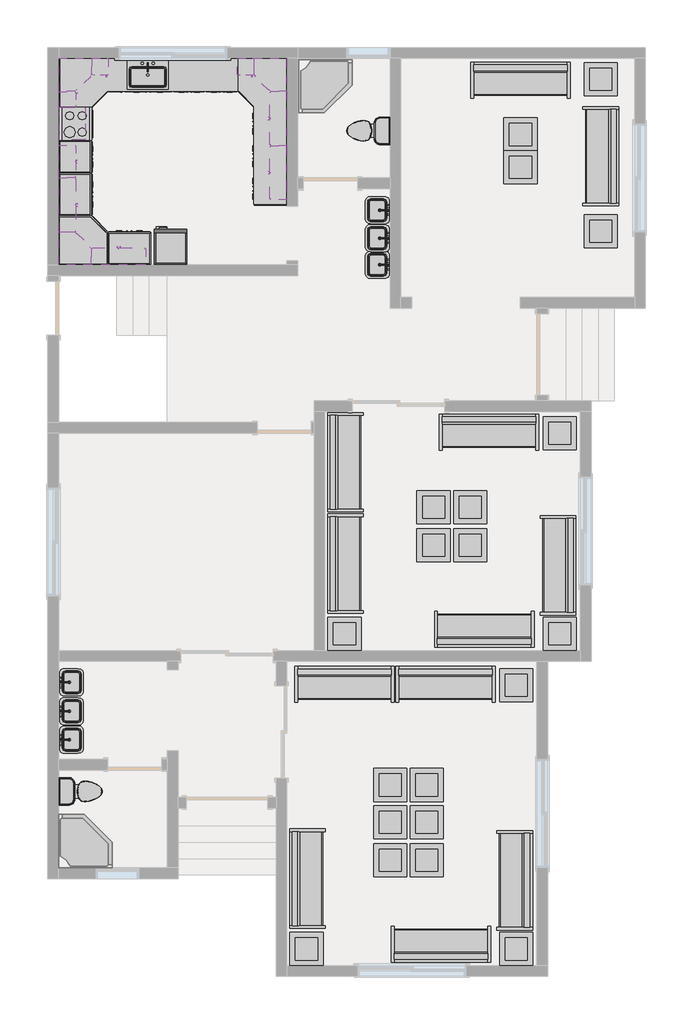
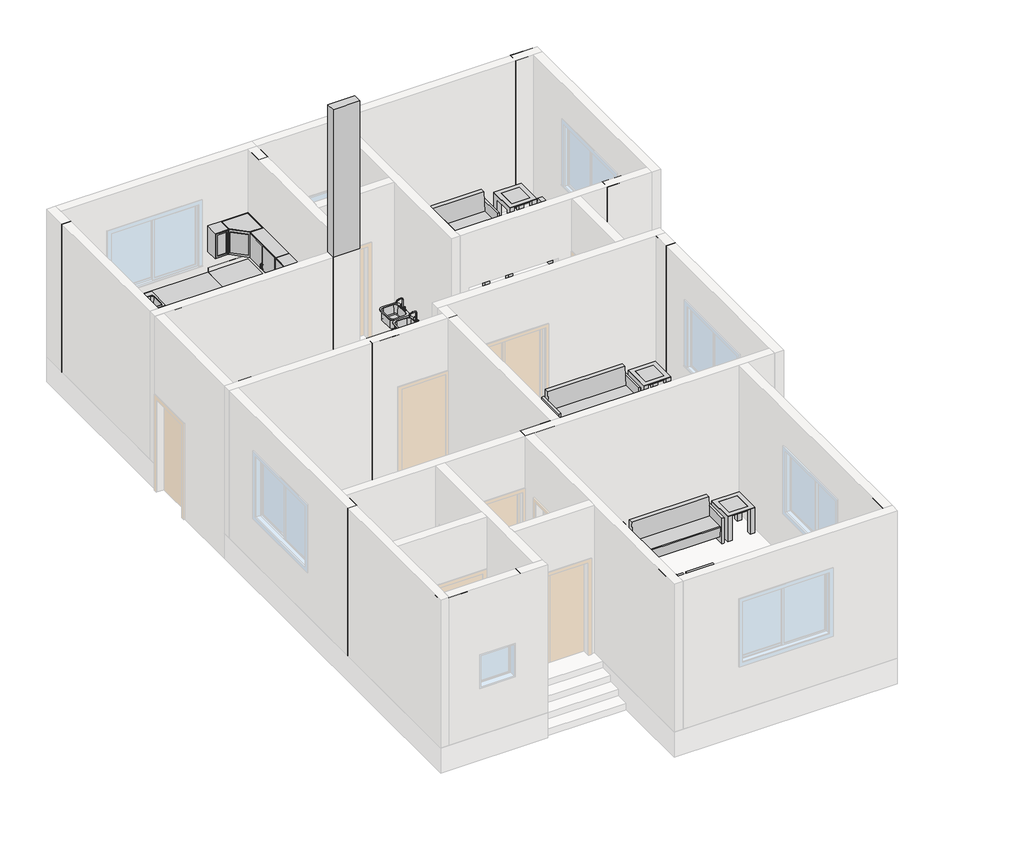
# One storey, part 2 of 2: 58 furniture elements, 19 columns, 11 flow terminals, 3 proxies.
"""IFC4 building model written with IfcOpenShell, lengths in millimetres."""

from ifc_helpers import new_model, si_unit, origin, origin_with_axes, place, context, project, spatial, polyline, outline, extrude, transform, mapped, element, save
from components import m_exhaust_hood_600_x_490mm_1f88b466, m_range_610_x_610mm_0f77da38, m_refrigerator_600_x_660mm_a466bf94, flow_terminal_bc4e76e0, m_sink_kitchen_single_760_x_535mm_74321b3d, m_sink_vanity_square_500_x_440mm_1e229b74, m_toilet_domestic_3d_m_toilet_domestic_3d_5cb52bd4, m_toilet_domestic_3d_m_toilet_domestic_3d_183bbd19, furniture_600mm_74c6c1e3, furniture_600mm_depth_d99565a5, furniture_800_mm_1ff4edde, m_base_cabinet_corner_unit_angled_900mm_0daa8f47, m_base_cabinet_single_door_w_sliding_drawers_0300mm_e5213fac, m_counter_top_l_shaped_2_600mm_depth_18ab53e4, m_sofa_1830mm_f9e8a66b, m_table_coffee_0610_x_0610_x_0610mm_65ce43c2, m_upper_cabinet_corner_unit_wall_300mm_3086bc04, m_upper_cabinet_corner_unit_wall_300mm_de248728, m_upper_cabinet_double_door_wall_1000mm_f9913229, m_upper_cabinet_double_door_wall_600mm_93809998, m_upper_cabinet_single_door_w_glass_wall_300mm_c5a61024, special_ad59d58f

model = new_model("IFC4")

# Units and contexts
model_context = context("Model", 3, world=origin())
ifc_project = project(units=[si_unit("LENGTHUNIT", "METRE", prefix="MILLI")], contexts=[model_context])

# Site, building, storey
site = spatial("IfcSite", under=ifc_project)
building = spatial("IfcBuilding", under=site)
storey = spatial("IfcBuildingStorey", under=building, Name="الدور الأرضي", Elevation=0.0)

# Proxies
placement = place(None, origin())
m_exhaust_hood_600_x_490mm_shape = m_exhaust_hood_600_x_490mm_1f88b466(model_context)
element("IfcBuildingElementProxy", 1, Name="M_Exhaust Hood : 600 x 490mm", ObjectType="M_Exhaust Hood : 600 x 490mm", at=placement, inside=storey, context=model_context, shape_type="MappedRepresentation", body=[
    mapped(m_exhaust_hood_600_x_490mm_shape, transform((-5718.9848222, 6807.3054684, 0.0), x_axis=(0.0, -1.0, 0.0), y_axis=(1.0, 0.0, 0.0), z_axis=(0.0, 0.0, 1.0))),
])
m_range_610_x_610mm_shape = m_range_610_x_610mm_0f77da38(model_context)
element("IfcBuildingElementProxy", 2, Name="M_Range : 610 x 610mm", ObjectType="M_Range : 610 x 610mm", at=placement, inside=storey, context=model_context, shape_type="MappedRepresentation", body=[
    mapped(m_range_610_x_610mm_shape, transform((-5008.9848222, 6519.7272556, 0.0), x_axis=(0.0, 1.0000000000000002, 0.0), y_axis=(-1.0000000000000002, 0.0, 0.0), z_axis=(0.0, 0.0, 1.0))),
])
m_refrigerator_600_x_660mm_shape = m_refrigerator_600_x_660mm_a466bf94(model_context)
element("IfcBuildingElementProxy", 3, Name="M_Refrigerator : 600 x 660mm", ObjectType="M_Refrigerator : 600 x 660mm", at=placement, inside=storey, context=model_context, shape_type="MappedRepresentation", body=[
    mapped(m_refrigerator_600_x_660mm_shape, transform((-3612.7859648, 4525.9423458, 0.0), x_axis=(-1.0000000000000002, 0.0, 0.0), y_axis=(0.0, -1.0000000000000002, 0.0), z_axis=(0.0, 0.0, 1.0))),
])

# Columns
element("IfcColumn", 4, ObjectType="M_Rectangular Column : 200 x 600 mm", at=placement, inside=storey, context=model_context, shape_type="SweptSolid", body=[
    extrude(outline(polyline([(-5618.9848222, 7629.7272556), (-5818.9848222, 7629.7272556), (-5818.9848222, 8229.7272556), (-5618.9848222, 8229.7272556), (-5618.9848222, 7629.7272556)])), origin_with_axes(), (0.0, 0.0, 1.0), 3500.0),
])
element("IfcColumn", 5, ObjectType="M_Rectangular Column : 200 x 600 mm", at=placement, inside=storey, context=model_context, shape_type="SweptSolid", body=[
    extrude(outline(polyline([(-1418.9848222, 8209.7272556), (-1218.9848222, 8209.7272556), (-1218.9848222, 7609.7272556), (-1418.9848222, 7609.7272556), (-1418.9848222, 8209.7272556)])), origin_with_axes(), (0.0, 0.0, 1.0), 3500.0),
])
element("IfcColumn", 6, ObjectType="M_Rectangular Column : 200 x 600 mm", at=placement, inside=storey, context=model_context, shape_type="SweptSolid", body=[
    extrude(outline(polyline([(481.0151778, 8229.7272556), (681.0151778, 8229.7272556), (681.0151778, 7629.7272556), (481.0151778, 7629.7272556), (481.0151778, 8229.7272556)])), origin_with_axes(), (0.0, 0.0, 1.0), 3500.0),
])
element("IfcColumn", 7, ObjectType="M_Rectangular Column : 200 x 600 mm", at=placement, inside=storey, context=model_context, shape_type="SweptSolid", body=[
    extrude(outline(polyline([(5181.0151778, 8229.7272556), (5181.0151778, 8029.7272556), (4581.0151778, 8029.7272556), (4581.0151778, 8229.7272556), (5181.0151778, 8229.7272556)])), origin_with_axes(), (0.0, 0.0, 1.0), 3500.0),
])
element("IfcColumn", 8, ObjectType="M_Rectangular Column : 200 x 600 mm", at=placement, inside=storey, context=model_context, shape_type="SweptSolid", body=[
    extrude(outline(polyline([(4581.0151778, 3629.7272556), (4581.0151778, 3429.7272556), (3981.0151778, 3429.7272556), (3981.0151778, 3629.7272556), (4581.0151778, 3629.7272556)])), origin_with_axes(), (0.0, 0.0, 1.0), 3500.0),
])
element("IfcColumn", 9, ObjectType="M_Rectangular Column : 200 x 600 mm", at=placement, inside=storey, context=model_context, shape_type="SweptSolid", body=[
    extrude(outline(polyline([(3981.0151778, 1729.7272556), (4181.0151778, 1729.7272556), (4181.0151778, 1129.7272556), (3981.0151778, 1129.7272556), (3981.0151778, 1729.7272556)])), origin_with_axes(), (0.0, 0.0, 1.0), 3500.0),
])
element("IfcColumn", 10, ObjectType="M_Rectangular Column : 200 x 600 mm", at=placement, inside=storey, context=model_context, shape_type="SweptSolid", body=[
    extrude(outline(polyline([(3781.0151778, -2870.2727444), (3781.0151778, -3070.2727444), (3181.0151778, -3070.2727444), (3181.0151778, -2870.2727444), (3781.0151778, -2870.2727444)])), origin_with_axes(), (0.0, 0.0, 1.0), 3500.0),
])
element("IfcColumn", 11, ObjectType="M_Rectangular Column : 200 x 600 mm", at=placement, inside=storey, context=model_context, shape_type="SweptSolid", body=[
    extrude(outline(polyline([(-918.9848222, 1729.7272556), (-718.9848222, 1729.7272556), (-718.9848222, 1129.7272556), (-918.9848222, 1129.7272556), (-918.9848222, 1729.7272556)])), origin_with_axes(), (0.0, 0.0, 1.0), 3500.0),
])
element("IfcColumn", 12, ObjectType="M_Rectangular Column : 200 x 600 mm", at=placement, inside=storey, context=model_context, shape_type="SweptSolid", body=[
    extrude(outline(polyline([(-1218.9848222, 4229.7272556), (-1218.9848222, 4029.7272556), (-1818.9848222, 4029.7272556), (-1818.9848222, 4229.7272556), (-1218.9848222, 4229.7272556)])), origin_with_axes(), (0.0, 0.0, 1.0), 7000.0),
])
element("IfcColumn", 13, ObjectType="M_Rectangular Column : 200 x 600 mm", at=placement, inside=storey, context=model_context, shape_type="SweptSolid", body=[
    extrude(outline(polyline([(-2018.9848222, 1329.7272556), (-2018.9848222, 1129.7272556), (-2618.9848222, 1129.7272556), (-2618.9848222, 1329.7272556), (-2018.9848222, 1329.7272556)])), origin_with_axes(), (0.0, 0.0, 1.0), 3500.0),
])
element("IfcColumn", 14, ObjectType="M_Rectangular Column : 200 x 600 mm", at=placement, inside=storey, context=model_context, shape_type="SweptSolid", body=[
    extrude(outline(polyline([(-5218.9848222, 1329.7272556), (-5218.9848222, 1129.7272556), (-5818.9848222, 1129.7272556), (-5818.9848222, 1329.7272556), (-5218.9848222, 1329.7272556)])), origin_with_axes(), (0.0, 0.0, 1.0), 3500.0),
])
element("IfcColumn", 15, ObjectType="M_Rectangular Column : 200 x 600 mm", at=placement, inside=storey, context=model_context, shape_type="SweptSolid", body=[
    extrude(outline(polyline([(-5218.9848222, 4229.7272556), (-5218.9848222, 4029.7272556), (-5818.9848222, 4029.7272556), (-5818.9848222, 4229.7272556), (-5218.9848222, 4229.7272556)])), origin_with_axes(), (0.0, 0.0, 1.0), 3500.0),
])
element("IfcColumn", 16, ObjectType="M_Rectangular Column : 200 x 600 mm", at=placement, inside=storey, context=model_context, shape_type="SweptSolid", body=[
    extrude(outline(polyline([(-5818.9848222, -2870.2727444), (-5618.9848222, -2870.2727444), (-5618.9848222, -3470.2727444), (-5818.9848222, -3470.2727444), (-5818.9848222, -2870.2727444)])), origin_with_axes(), (0.0, 0.0, 1.0), 3500.0),
])
element("IfcColumn", 17, ObjectType="M_Rectangular Column : 200 x 600 mm", at=placement, inside=storey, context=model_context, shape_type="SweptSolid", body=[
    extrude(outline(polyline([(-5218.9848222, -6870.2727444), (-5218.9848222, -7070.2727444), (-5818.9848222, -7070.2727444), (-5818.9848222, -6870.2727444), (-5218.9848222, -6870.2727444)])), origin_with_axes(), (0.0, 0.0, 1.0), 3500.0),
])
element("IfcColumn", 18, ObjectType="M_Rectangular Column : 200 x 600 mm", at=placement, inside=storey, context=model_context, shape_type="SweptSolid", body=[
    extrude(outline(polyline([(-3418.9848222, -6870.2727444), (-3418.9848222, -7070.2727444), (-4018.9848222, -7070.2727444), (-4018.9848222, -6870.2727444), (-3418.9848222, -6870.2727444)])), origin_with_axes(), (0.0, 0.0, 1.0), 3500.0),
])
element("IfcColumn", 19, ObjectType="M_Rectangular Column : 200 x 600 mm", at=placement, inside=storey, context=model_context, shape_type="SweptSolid", body=[
    extrude(outline(polyline([(-1618.9848222, -8270.2727444), (-1418.9848222, -8270.2727444), (-1418.9848222, -8870.2727444), (-1618.9848222, -8870.2727444), (-1618.9848222, -8270.2727444)])), origin_with_axes(), (0.0, 0.0, 1.0), 3500.0),
])
element("IfcColumn", 20, ObjectType="M_Rectangular Column : 200 x 600 mm", at=placement, inside=storey, context=model_context, shape_type="SweptSolid", body=[
    extrude(outline(polyline([(3181.0151778, -8270.2727444), (3381.0151778, -8270.2727444), (3381.0151778, -8870.2727444), (3181.0151778, -8870.2727444), (3181.0151778, -8270.2727444)])), origin_with_axes(), (0.0, 0.0, 1.0), 3500.0),
])
element("IfcColumn", 21, ObjectType="M_Rectangular Column : 200 x 600 mm", at=placement, inside=storey, context=model_context, shape_type="SweptSolid", body=[
    extrude(outline(polyline([(481.0151778, 4029.7272556), (681.0151778, 4029.7272556), (681.0151778, 3429.7272556), (481.0151778, 3429.7272556), (481.0151778, 4029.7272556)])), origin_with_axes(), (0.0, 0.0, 1.0), 3500.0),
])
element("IfcColumn", 22, ObjectType="M_Rectangular Column : 200 x 900 mm", at=placement, inside=storey, context=model_context, shape_type="SweptSolid", body=[
    extrude(outline(polyline([(-708.9848222, -2870.2727444), (-708.9848222, -3070.2727444), (-1608.9848222, -3070.2727444), (-1608.9848222, -2870.2727444), (-708.9848222, -2870.2727444)])), origin_with_axes(), (0.0, 0.0, 1.0), 3500.0),
])

# Flow terminals
flow_terminal_shape = flow_terminal_bc4e76e0(model_context)
element("IfcFlowTerminal", 23, ObjectType="Kohler_-_K-1517_Cap_Cod_40_inch_Neo-angle_Shower_1286 : Kohler_-_K-1517_Cap_Cod_40_inch_Neo-angle_Shower_1286", at=placement, inside=storey, context=model_context, shape_type="MappedRepresentation", body=[
    mapped(flow_terminal_shape, transform((-1198.9848222, 8009.8435596, 0.0), x_axis=(1.0, 0.0, 0.0), y_axis=(0.0, 1.0, 0.0), z_axis=(0.0, 0.0, 1.0))),
])
element("IfcFlowTerminal", 24, ObjectType="Kohler_-_K-1517_Cap_Cod_40_inch_Neo-angle_Shower_1286 : Kohler_-_K-1517_Cap_Cod_40_inch_Neo-angle_Shower_1286", at=placement, inside=storey, context=model_context, shape_type="MappedRepresentation", body=[
    mapped(flow_terminal_shape, transform((-5618.9848222, -6870.2727444, 0.0), x_axis=(0.0, 1.0000000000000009, 0.0), y_axis=(-1.0000000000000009, 0.0, 0.0), z_axis=(0.0, 0.0, 1.0))),
])
m_sink_kitchen_single_760_x_535mm_shape = m_sink_kitchen_single_760_x_535mm_74321b3d(model_context)
element("IfcFlowTerminal", 25, ObjectType="M_Sink Kitchen-Single : 760 x 535mm", at=placement, inside=storey, context=model_context, shape_type="MappedRepresentation", body=[
    mapped(m_sink_kitchen_single_760_x_535mm_shape, transform((-3996.5740627, 7725.0599855, 0.0), x_axis=(1.0, 0.0, 0.0), y_axis=(0.0, 1.0, 0.0), z_axis=(0.0, 0.0, 1.0))),
])
m_sink_vanity_square_500_x_440mm_shape = m_sink_vanity_square_500_x_440mm_1e229b74(model_context)
element("IfcFlowTerminal", 26, ObjectType="M_Sink Vanity-Square : 500 x 440mm", at=placement, inside=storey, context=model_context, shape_type="MappedRepresentation", body=[
    mapped(m_sink_vanity_square_500_x_440mm_shape, transform((-5424.8145571, -4527.3654741, 0.0), x_axis=(0.0, 1.0, 0.0), y_axis=(-1.0, 0.0, 0.0), z_axis=(0.0, 0.0, 1.0))),
])
element("IfcFlowTerminal", 27, ObjectType="M_Sink Vanity-Square : 500 x 440mm", at=placement, inside=storey, context=model_context, shape_type="MappedRepresentation", body=[
    mapped(m_sink_vanity_square_500_x_440mm_shape, transform((-5424.8145571, -4005.4654741, 0.0), x_axis=(0.0, 1.0, 0.0), y_axis=(-1.0, 0.0, 0.0), z_axis=(0.0, 0.0, 1.0))),
])
element("IfcFlowTerminal", 28, ObjectType="M_Sink Vanity-Square : 500 x 440mm", at=placement, inside=storey, context=model_context, shape_type="MappedRepresentation", body=[
    mapped(m_sink_vanity_square_500_x_440mm_shape, transform((-5424.8145571, -3470.8660181, 0.0), x_axis=(0.0, 1.0, 0.0), y_axis=(-1.0, 0.0, 0.0), z_axis=(0.0, 0.0, 1.0))),
])
element("IfcFlowTerminal", 29, ObjectType="M_Sink Vanity-Square : 500 x 440mm", at=placement, inside=storey, context=model_context, shape_type="MappedRepresentation", body=[
    mapped(m_sink_vanity_square_500_x_440mm_shape, transform((286.8449127, 5251.9869495, 0.0), x_axis=(0.0, -1.0, 0.0), y_axis=(1.0, 0.0, 0.0), z_axis=(0.0, 0.0, 1.0))),
])
element("IfcFlowTerminal", 30, ObjectType="M_Sink Vanity-Square : 500 x 440mm", at=placement, inside=storey, context=model_context, shape_type="MappedRepresentation", body=[
    mapped(m_sink_vanity_square_500_x_440mm_shape, transform((286.8449127, 4737.3164962, 0.0), x_axis=(0.0, -1.0, 0.0), y_axis=(1.0, 0.0, 0.0), z_axis=(0.0, 0.0, 1.0))),
])
element("IfcFlowTerminal", 31, ObjectType="M_Sink Vanity-Square : 500 x 440mm", at=placement, inside=storey, context=model_context, shape_type="MappedRepresentation", body=[
    mapped(m_sink_vanity_square_500_x_440mm_shape, transform((286.8449127, 4245.4164962, 0.0), x_axis=(0.0, -1.0, 0.0), y_axis=(1.0, 0.0, 0.0), z_axis=(0.0, 0.0, 1.0))),
])
m_toilet_domestic_3d_m_toilet_domestic_3d_shape = m_toilet_domestic_3d_m_toilet_domestic_3d_5cb52bd4(model_context)
m_toilet_domestic_3d_m_toilet_domestic_3d_2_shape = m_toilet_domestic_3d_m_toilet_domestic_3d_183bbd19(model_context)
element("IfcFlowTerminal", 32, ObjectType="M_Toilet-Domestic-3D : M_Toilet-Domestic-3D", at=placement, inside=storey, context=model_context, shape_type="MappedRepresentation", body=[
    mapped(m_toilet_domestic_3d_m_toilet_domestic_3d_shape, transform((-13.6808495, 6698.3117877, 0.0), x_axis=(0.0, -0.9999999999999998, 0.0), y_axis=(0.9999999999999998, 0.0, 0.0), z_axis=(0.0, 0.0, 1.0))),
    mapped(m_toilet_domestic_3d_m_toilet_domestic_3d_2_shape, transform((-13.6808495, 6698.3117877, 0.0), x_axis=(0.0, -0.9999999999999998, 0.0), y_axis=(0.9999999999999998, 0.0, 0.0), z_axis=(0.0, 0.0, 1.0))),
])
element("IfcFlowTerminal", 33, ObjectType="M_Toilet-Domestic-3D : M_Toilet-Domestic-3D", at=placement, inside=storey, context=model_context, shape_type="MappedRepresentation", body=[
    mapped(m_toilet_domestic_3d_m_toilet_domestic_3d_shape, transform((-5124.2887948, -5463.6687718, 0.0), x_axis=(0.0, 1.0000000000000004, 0.0), y_axis=(-1.0000000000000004, 0.0, 0.0), z_axis=(0.0, 0.0, 1.0))),
    mapped(m_toilet_domestic_3d_m_toilet_domestic_3d_2_shape, transform((-5124.2887948, -5463.6687718, 0.0), x_axis=(0.0, 1.0000000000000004, 0.0), y_axis=(-1.0000000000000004, 0.0, 0.0), z_axis=(0.0, 0.0, 1.0))),
])

# Furniture
furniture_600mm_shape = furniture_600mm_74c6c1e3(model_context)
element("IfcFurniture", 34, ObjectType="M_Base Cabinet-Double Door & 2 Drawer : 600mm", at=placement, inside=storey, context=model_context, shape_type="MappedRepresentation", body=[
    mapped(furniture_600mm_shape, transform((-1418.9848222, 5648.4649605, 0.0), x_axis=(0.0, -1.0000000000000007, 0.0), y_axis=(1.0000000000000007, 0.0, 0.0), z_axis=(0.0, 0.0, 1.0))),
])
element("IfcFurniture", 35, ObjectType="M_Base Cabinet-Double Door & 2 Drawer : 600mm", at=placement, inside=storey, context=model_context, shape_type="MappedRepresentation", body=[
    mapped(furniture_600mm_shape, transform((-1418.9848222, 6248.4649605, 0.0), x_axis=(0.0, -1.0, 0.0), y_axis=(1.0, 0.0, 0.0), z_axis=(0.0, 0.0, 1.0))),
])
element("IfcFurniture", 36, ObjectType="M_Base Cabinet-Double Door & 2 Drawer : 600mm", at=placement, inside=storey, context=model_context, shape_type="MappedRepresentation", body=[
    mapped(furniture_600mm_shape, transform((-1418.9848222, 6848.4649605, 0.0), x_axis=(0.0, -1.0, 0.0), y_axis=(1.0, 0.0, 0.0), z_axis=(0.0, 0.0, 1.0))),
])
element("IfcFurniture", 37, ObjectType="M_Base Cabinet-Double Door & 2 Drawer : 600mm", at=placement, inside=storey, context=model_context, shape_type="MappedRepresentation", body=[
    mapped(furniture_600mm_shape, transform((-2637.7225271, 8029.7272556, 0.0), x_axis=(1.0, 0.0, 0.0), y_axis=(0.0, 1.0, 0.0), z_axis=(0.0, 0.0, 1.0))),
])
element("IfcFurniture", 38, ObjectType="M_Base Cabinet-Double Door & 2 Drawer : 600mm", at=placement, inside=storey, context=model_context, shape_type="MappedRepresentation", body=[
    mapped(furniture_600mm_shape, transform((-3237.7225271, 8029.7272556, 0.0), x_axis=(1.0, 0.0, 0.0), y_axis=(0.0, 1.0, 0.0), z_axis=(0.0, 0.0, 1.0))),
])
element("IfcFurniture", 39, ObjectType="M_Base Cabinet-Double Door & 2 Drawer : 600mm", at=placement, inside=storey, context=model_context, shape_type="MappedRepresentation", body=[
    mapped(furniture_600mm_shape, transform((-5618.9848222, 6200.9895507, 0.0), x_axis=(0.0, 1.0000000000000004, 0.0), y_axis=(-1.0000000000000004, 0.0, 0.0), z_axis=(0.0, 0.0, 1.0))),
])
furniture_600mm_depth_shape = furniture_600mm_depth_d99565a5(model_context)
element("IfcFurniture", 40, ObjectType="M_Counter Top-L Shaped w Sink Hole 2 : 600mm Depth", at=placement, inside=storey, context=model_context, shape_type="MappedRepresentation", body=[
    mapped(furniture_600mm_depth_shape, transform((-4423.5225271, 8048.7772556, 0.0), x_axis=(1.0, 0.0, 0.0), y_axis=(0.0, 1.0, 0.0), z_axis=(0.0, 0.0, 1.0))),
])
furniture_800_mm_shape = furniture_800_mm_1ff4edde(model_context)
element("IfcFurniture", 41, ObjectType="M_Base Cabinet-Double Door & 2 Drawer : 800 mm", at=placement, inside=storey, context=model_context, shape_type="MappedRepresentation", body=[
    mapped(furniture_800_mm_shape, transform((-5618.9848222, 5505.9895507, 0.0), x_axis=(0.0, 1.0000000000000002, 0.0), y_axis=(-1.0000000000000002, 0.0, 0.0), z_axis=(0.0, 0.0, 1.0))),
])
element("IfcFurniture", 42, ObjectType="M_Base Cabinet-Double Door & 2 Drawer : 800 mm", at=placement, inside=storey, context=model_context, shape_type="MappedRepresentation", body=[
    mapped(furniture_800_mm_shape, transform((-4305.2471173, 4229.7272556, 0.0), x_axis=(-1.0000000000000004, 0.0, 0.0), y_axis=(0.0, -1.0000000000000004, 0.0), z_axis=(0.0, 0.0, 1.0))),
])
m_base_cabinet_corner_unit_angled_900mm_shape = m_base_cabinet_corner_unit_angled_900mm_0daa8f47(model_context)
element("IfcFurniture", 43, ObjectType="M_Base Cabinet-Corner Unit-Angled : 900mm", at=placement, inside=storey, context=model_context, shape_type="MappedRepresentation", body=[
    mapped(m_base_cabinet_corner_unit_angled_900mm_shape, transform((-1931.3225271, 8029.7272556, 0.0), x_axis=(1.0, 0.0, 0.0), y_axis=(0.0, 1.0, 0.0), z_axis=(0.0, 0.0, 1.0))),
])
element("IfcFurniture", 44, ObjectType="M_Base Cabinet-Corner Unit-Angled : 900mm", at=placement, inside=storey, context=model_context, shape_type="MappedRepresentation", body=[
    mapped(m_base_cabinet_corner_unit_angled_900mm_shape, transform((-5618.9848222, 7517.3895507, 0.0), x_axis=(0.0, 1.0000000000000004, 0.0), y_axis=(-1.0000000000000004, 0.0, 0.0), z_axis=(0.0, 0.0, 1.0))),
])
element("IfcFurniture", 45, ObjectType="M_Base Cabinet-Corner Unit-Angled : 900mm", at=placement, inside=storey, context=model_context, shape_type="MappedRepresentation", body=[
    mapped(m_base_cabinet_corner_unit_angled_900mm_shape, transform((-5106.6471173, 4229.7272556, 0.0), x_axis=(-1.0000000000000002, 0.0, 0.0), y_axis=(0.0, -1.0000000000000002, 0.0), z_axis=(0.0, 0.0, 1.0))),
])
m_base_cabinet_single_door_w_sliding_drawers_0300mm_shape = m_base_cabinet_single_door_w_sliding_drawers_0300mm_e5213fac(model_context)
element("IfcFurniture", 46, ObjectType="M_Base Cabinet-Single Door w Sliding Drawers : 0300mm", at=placement, inside=storey, context=model_context, shape_type="MappedRepresentation", body=[
    mapped(m_base_cabinet_single_door_w_sliding_drawers_0300mm_shape, transform((-4587.7225271, 8029.7272556, 0.0), x_axis=(1.0, 0.0, 0.0), y_axis=(0.0, 1.0, 0.0), z_axis=(0.0, 0.0, 1.0))),
])
m_counter_top_l_shaped_2_600mm_depth_shape = m_counter_top_l_shaped_2_600mm_depth_18ab53e4(model_context)
element("IfcFurniture", 47, ObjectType="M_Counter Top-L Shaped 2 : 600mm Depth", at=placement, inside=storey, context=model_context, shape_type="MappedRepresentation", body=[
    mapped(m_counter_top_l_shaped_2_600mm_depth_shape, transform((-1399.9348222, 6848.3149605, 0.0), x_axis=(0.0, -1.0, 0.0), y_axis=(1.0, 0.0, 0.0), z_axis=(0.0, 0.0, 1.0))),
])
m_sofa_1830mm_shape = m_sofa_1830mm_f9e8a66b(model_context)
element("IfcFurniture", 48, ObjectType="M_Sofa : 1830mm", at=placement, inside=storey, context=model_context, shape_type="MappedRepresentation", body=[
    mapped(m_sofa_1830mm_shape, transform((4214.8610795, 6300.0977474, 0.0), x_axis=(0.0, -1.0000000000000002, 0.0), y_axis=(1.0000000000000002, 0.0, 0.0), z_axis=(0.0, 0.0, 1.0))),
])
element("IfcFurniture", 49, ObjectType="M_Sofa : 1830mm", at=placement, inside=storey, context=model_context, shape_type="MappedRepresentation", body=[
    mapped(m_sofa_1830mm_shape, transform((2810.644686, 7483.5731572, 0.0), x_axis=(1.0000000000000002, 0.0, 0.0), y_axis=(0.0, 1.0000000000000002, 0.0), z_axis=(0.0, 0.0, 1.0))),
])
element("IfcFurniture", 50, ObjectType="M_Sofa : 1830mm", at=placement, inside=storey, context=model_context, shape_type="MappedRepresentation", body=[
    mapped(m_sofa_1830mm_shape, transform((2230.644686, 1003.5731572, 0.0), x_axis=(1.0, 0.0, 0.0), y_axis=(0.0, 1.0, 0.0), z_axis=(0.0, 0.0, 1.0))),
])
element("IfcFurniture", 51, ObjectType="M_Sofa : 1830mm", at=placement, inside=storey, context=model_context, shape_type="MappedRepresentation", body=[
    mapped(m_sofa_1830mm_shape, transform((2287.850015, -2331.4325264, 0.0), x_axis=(-1.0000000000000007, 0.0, 0.0), y_axis=(0.0, -1.0000000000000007, 0.0), z_axis=(0.0, 0.0, 1.0))),
])
element("IfcFurniture", 52, ObjectType="M_Sofa : 1830mm", at=placement, inside=storey, context=model_context, shape_type="MappedRepresentation", body=[
    mapped(m_sofa_1830mm_shape, transform((-194.4852947, 525.1700393, 0.0), x_axis=(0.0, 1.0, 0.0), y_axis=(-1.0, 0.0, 0.0), z_axis=(0.0, 0.0, 1.0))),
])
element("IfcFurniture", 53, ObjectType="M_Sofa : 1830mm", at=placement, inside=storey, context=model_context, shape_type="MappedRepresentation", body=[
    mapped(m_sofa_1830mm_shape, transform((-194.4852947, -1340.6432362, 0.0), x_axis=(0.0, 1.0, 0.0), y_axis=(-1.0, 0.0, 0.0), z_axis=(0.0, 0.0, 1.0))),
])
element("IfcFurniture", 54, ObjectType="M_Sofa : 1830mm", at=placement, inside=storey, context=model_context, shape_type="MappedRepresentation", body=[
    mapped(m_sofa_1830mm_shape, transform((3426.6786799, -1232.0660841, 0.0), x_axis=(0.0, -1.0000000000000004, 0.0), y_axis=(1.0000000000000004, 0.0, 0.0), z_axis=(0.0, 0.0, 1.0))),
])
element("IfcFurniture", 55, ObjectType="M_Sofa : 1830mm", at=placement, inside=storey, context=model_context, shape_type="MappedRepresentation", body=[
    mapped(m_sofa_1830mm_shape, transform((1430.644686, -3636.4268428, 0.0), x_axis=(1.0, 0.0, 0.0), y_axis=(0.0, 1.0, 0.0), z_axis=(0.0, 0.0, 1.0))),
])
element("IfcFurniture", 56, ObjectType="M_Sofa : 1830mm", at=placement, inside=storey, context=model_context, shape_type="MappedRepresentation", body=[
    mapped(m_sofa_1830mm_shape, transform((1487.850015, -8131.4325264, 0.0), x_axis=(-1.0000000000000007, 0.0, 0.0), y_axis=(0.0, -1.0000000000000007, 0.0), z_axis=(0.0, 0.0, 1.0))),
])
element("IfcFurniture", 57, ObjectType="M_Sofa : 1830mm", at=placement, inside=storey, context=model_context, shape_type="MappedRepresentation", body=[
    mapped(m_sofa_1830mm_shape, transform((-894.4852947, -7140.6432362, 0.0), x_axis=(0.0, 1.0, 0.0), y_axis=(-1.0, 0.0, 0.0), z_axis=(0.0, 0.0, 1.0))),
])
element("IfcFurniture", 58, ObjectType="M_Sofa : 1830mm", at=placement, inside=storey, context=model_context, shape_type="MappedRepresentation", body=[
    mapped(m_sofa_1830mm_shape, transform((2626.6786799, -7032.0660841, 0.0), x_axis=(0.0, -1.0000000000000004, 0.0), y_axis=(1.0000000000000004, 0.0, 0.0), z_axis=(0.0, 0.0, 1.0))),
])
element("IfcFurniture", 59, ObjectType="M_Sofa : 1830mm", at=placement, inside=storey, context=model_context, shape_type="MappedRepresentation", body=[
    mapped(m_sofa_1830mm_shape, transform((-429.355314, -3636.4268428, 0.0), x_axis=(1.0, 0.0, 0.0), y_axis=(0.0, 1.0, 0.0), z_axis=(0.0, 0.0, 1.0))),
])
m_table_coffee_0610_x_0610_x_0610mm_shape = m_table_coffee_0610_x_0610_x_0610mm_65ce43c2(model_context)
element("IfcFurniture", 60, ObjectType="M_Table-Coffee : 0610 x 0610 x 0610mm", at=placement, inside=storey, context=model_context, shape_type="MappedRepresentation", body=[
    mapped(m_table_coffee_0610_x_0610_x_0610mm_shape, transform((4341.7271696, 7554.5161778, 0.0), x_axis=(1.0, 0.0, 0.0), y_axis=(0.0, 1.0, 0.0), z_axis=(0.0, 0.0, 1.0))),
])
element("IfcFurniture", 61, ObjectType="M_Table-Coffee : 0610 x 0610 x 0610mm", at=placement, inside=storey, context=model_context, shape_type="MappedRepresentation", body=[
    mapped(m_table_coffee_0610_x_0610_x_0610mm_shape, transform((2862.7494112, 6534.5161778, 0.0), x_axis=(1.0, 0.0, 0.0), y_axis=(0.0, 1.0, 0.0), z_axis=(0.0, 0.0, 1.0))),
])
element("IfcFurniture", 62, ObjectType="M_Table-Coffee : 0610 x 0610 x 0610mm", at=placement, inside=storey, context=model_context, shape_type="MappedRepresentation", body=[
    mapped(m_table_coffee_0610_x_0610_x_0610mm_shape, transform((2862.7494112, 5934.5161778, 0.0), x_axis=(1.0, 0.0, 0.0), y_axis=(0.0, 1.0, 0.0), z_axis=(0.0, 0.0, 1.0))),
])
element("IfcFurniture", 63, ObjectType="M_Table-Coffee : 0610 x 0610 x 0610mm", at=placement, inside=storey, context=model_context, shape_type="MappedRepresentation", body=[
    mapped(m_table_coffee_0610_x_0610_x_0610mm_shape, transform((4341.7271696, 4754.5161778, 0.0), x_axis=(1.0, 0.0, 0.0), y_axis=(0.0, 1.0, 0.0), z_axis=(0.0, 0.0, 1.0))),
])
element("IfcFurniture", 64, ObjectType="M_Table-Coffee : 0610 x 0610 x 0610mm", at=placement, inside=storey, context=model_context, shape_type="MappedRepresentation", body=[
    mapped(m_table_coffee_0610_x_0610_x_0610mm_shape, transform((3582.7494112, 1034.5161778, 0.0), x_axis=(1.0, 0.0, 0.0), y_axis=(0.0, 1.0, 0.0), z_axis=(0.0, 0.0, 1.0))),
])
element("IfcFurniture", 65, ObjectType="M_Table-Coffee : 0610 x 0610 x 0610mm", at=placement, inside=storey, context=model_context, shape_type="MappedRepresentation", body=[
    mapped(m_table_coffee_0610_x_0610_x_0610mm_shape, transform((3582.7494112, -2660.4838222, 0.0), x_axis=(1.0, 0.0, 0.0), y_axis=(0.0, 1.0, 0.0), z_axis=(0.0, 0.0, 1.0))),
])
element("IfcFurniture", 66, ObjectType="M_Table-Coffee : 0610 x 0610 x 0610mm", at=placement, inside=storey, context=model_context, shape_type="MappedRepresentation", body=[
    mapped(m_table_coffee_0610_x_0610_x_0610mm_shape, transform((-377.2505888, -2660.4838222, 0.0), x_axis=(1.0, 0.0, 0.0), y_axis=(0.0, 1.0, 0.0), z_axis=(0.0, 0.0, 1.0))),
])
element("IfcFurniture", 67, ObjectType="M_Table-Coffee : 0610 x 0610 x 0610mm", at=placement, inside=storey, context=model_context, shape_type="MappedRepresentation", body=[
    mapped(m_table_coffee_0610_x_0610_x_0610mm_shape, transform((1262.7494112, -325.4838222, 0.0), x_axis=(1.0, 0.0, 0.0), y_axis=(0.0, 1.0, 0.0), z_axis=(0.0, 0.0, 1.0))),
])
element("IfcFurniture", 68, ObjectType="M_Table-Coffee : 0610 x 0610 x 0610mm", at=placement, inside=storey, context=model_context, shape_type="MappedRepresentation", body=[
    mapped(m_table_coffee_0610_x_0610_x_0610mm_shape, transform((1935.6280316, -325.4838222, 0.0), x_axis=(1.0, 0.0, 0.0), y_axis=(0.0, 1.0, 0.0), z_axis=(0.0, 0.0, 1.0))),
])
element("IfcFurniture", 69, ObjectType="M_Table-Coffee : 0610 x 0610 x 0610mm", at=placement, inside=storey, context=model_context, shape_type="MappedRepresentation", body=[
    mapped(m_table_coffee_0610_x_0610_x_0610mm_shape, transform((1935.6280316, -1025.4838222, 0.0), x_axis=(1.0, 0.0, 0.0), y_axis=(0.0, 1.0, 0.0), z_axis=(0.0, 0.0, 1.0))),
])
element("IfcFurniture", 70, ObjectType="M_Table-Coffee : 0610 x 0610 x 0610mm", at=placement, inside=storey, context=model_context, shape_type="MappedRepresentation", body=[
    mapped(m_table_coffee_0610_x_0610_x_0610mm_shape, transform((1262.7494112, -1025.4838222, 0.0), x_axis=(1.0, 0.0, 0.0), y_axis=(0.0, 1.0, 0.0), z_axis=(0.0, 0.0, 1.0))),
])
element("IfcFurniture", 71, ObjectType="M_Table-Coffee : 0610 x 0610 x 0610mm", at=placement, inside=storey, context=model_context, shape_type="MappedRepresentation", body=[
    mapped(m_table_coffee_0610_x_0610_x_0610mm_shape, transform((2782.7494112, -3605.4838222, 0.0), x_axis=(1.0, 0.0, 0.0), y_axis=(0.0, 1.0, 0.0), z_axis=(0.0, 0.0, 1.0))),
])
element("IfcFurniture", 72, ObjectType="M_Table-Coffee : 0610 x 0610 x 0610mm", at=placement, inside=storey, context=model_context, shape_type="MappedRepresentation", body=[
    mapped(m_table_coffee_0610_x_0610_x_0610mm_shape, transform((2782.7494112, -8460.4838222, 0.0), x_axis=(1.0, 0.0, 0.0), y_axis=(0.0, 1.0, 0.0), z_axis=(0.0, 0.0, 1.0))),
])
element("IfcFurniture", 73, ObjectType="M_Table-Coffee : 0610 x 0610 x 0610mm", at=placement, inside=storey, context=model_context, shape_type="MappedRepresentation", body=[
    mapped(m_table_coffee_0610_x_0610_x_0610mm_shape, transform((-1077.2505888, -8460.4838222, 0.0), x_axis=(1.0, 0.0, 0.0), y_axis=(0.0, 1.0, 0.0), z_axis=(0.0, 0.0, 1.0))),
])
element("IfcFurniture", 74, ObjectType="M_Table-Coffee : 0610 x 0610 x 0610mm", at=placement, inside=storey, context=model_context, shape_type="MappedRepresentation", body=[
    mapped(m_table_coffee_0610_x_0610_x_0610mm_shape, transform((462.7494112, -6125.4838222, 0.0), x_axis=(1.0, 0.0, 0.0), y_axis=(0.0, 1.0, 0.0), z_axis=(0.0, 0.0, 1.0))),
])
element("IfcFurniture", 75, ObjectType="M_Table-Coffee : 0610 x 0610 x 0610mm", at=placement, inside=storey, context=model_context, shape_type="MappedRepresentation", body=[
    mapped(m_table_coffee_0610_x_0610_x_0610mm_shape, transform((1135.6280316, -6125.4838222, 0.0), x_axis=(1.0, 0.0, 0.0), y_axis=(0.0, 1.0, 0.0), z_axis=(0.0, 0.0, 1.0))),
])
element("IfcFurniture", 76, ObjectType="M_Table-Coffee : 0610 x 0610 x 0610mm", at=placement, inside=storey, context=model_context, shape_type="MappedRepresentation", body=[
    mapped(m_table_coffee_0610_x_0610_x_0610mm_shape, transform((1135.6280316, -6825.4838222, 0.0), x_axis=(1.0, 0.0, 0.0), y_axis=(0.0, 1.0, 0.0), z_axis=(0.0, 0.0, 1.0))),
])
element("IfcFurniture", 77, ObjectType="M_Table-Coffee : 0610 x 0610 x 0610mm", at=placement, inside=storey, context=model_context, shape_type="MappedRepresentation", body=[
    mapped(m_table_coffee_0610_x_0610_x_0610mm_shape, transform((462.7494112, -6825.4838222, 0.0), x_axis=(1.0, 0.0, 0.0), y_axis=(0.0, 1.0, 0.0), z_axis=(0.0, 0.0, 1.0))),
])
element("IfcFurniture", 78, ObjectType="M_Table-Coffee : 0610 x 0610 x 0610mm", at=placement, inside=storey, context=model_context, shape_type="MappedRepresentation", body=[
    mapped(m_table_coffee_0610_x_0610_x_0610mm_shape, transform((462.7494112, -5440.4838222, 0.0), x_axis=(1.0, 0.0, 0.0), y_axis=(0.0, 1.0, 0.0), z_axis=(0.0, 0.0, 1.0))),
])
element("IfcFurniture", 79, ObjectType="M_Table-Coffee : 0610 x 0610 x 0610mm", at=placement, inside=storey, context=model_context, shape_type="MappedRepresentation", body=[
    mapped(m_table_coffee_0610_x_0610_x_0610mm_shape, transform((1135.6280316, -5440.4838222, 0.0), x_axis=(1.0, 0.0, 0.0), y_axis=(0.0, 1.0, 0.0), z_axis=(0.0, 0.0, 1.0))),
])
m_upper_cabinet_corner_unit_wall_300mm_shape = m_upper_cabinet_corner_unit_wall_300mm_3086bc04(model_context)
element("IfcFurniture", 80, ObjectType="M_Upper Cabinet-Corner Unit-Wall : 300mm", at=placement, inside=storey, context=model_context, shape_type="MappedRepresentation", body=[
    mapped(m_upper_cabinet_corner_unit_wall_300mm_shape, transform((-1318.9848222, 7988.0984184, 0.0), x_axis=(0.0, -1.0, 0.0), y_axis=(1.0, 0.0, 0.0), z_axis=(0.0, 0.0, 1.0))),
])
m_upper_cabinet_corner_unit_wall_300mm_2_shape = m_upper_cabinet_corner_unit_wall_300mm_de248728(model_context)
element("IfcFurniture", 81, ObjectType="M_Upper Cabinet-Corner Unit-Wall : 300mm", at=placement, inside=storey, context=model_context, shape_type="MappedRepresentation", body=[
    mapped(m_upper_cabinet_corner_unit_wall_300mm_2_shape, transform((-5718.9848222, 7990.4984184, 0.0), x_axis=(0.0, -1.0, 0.0), y_axis=(1.0, 0.0, 0.0), z_axis=(0.0, 0.0, 1.0))),
])
element("IfcFurniture", 82, ObjectType="M_Upper Cabinet-Corner Unit-Wall : 300mm", at=placement, inside=storey, context=model_context, shape_type="MappedRepresentation", body=[
    mapped(m_upper_cabinet_corner_unit_wall_300mm_2_shape, transform((-5579.755985, 4129.7272556, 0.0), x_axis=(1.0, 0.0, 0.0), y_axis=(0.0, 1.0, 0.0), z_axis=(0.0, 0.0, 1.0))),
])
m_upper_cabinet_double_door_wall_1000mm_shape = m_upper_cabinet_double_door_wall_1000mm_f9913229(model_context)
element("IfcFurniture", 83, ObjectType="M_Upper Cabinet-Double Door-Wall : 1000mm", at=placement, inside=storey, context=model_context, shape_type="MappedRepresentation", body=[
    mapped(m_upper_cabinet_double_door_wall_1000mm_shape, transform((-5718.9848222, 5359.4984184, 0.0), x_axis=(0.0, -1.0, 0.0), y_axis=(1.0, 0.0, 0.0), z_axis=(0.0, 0.0, 1.0))),
])
element("IfcFurniture", 84, ObjectType="M_Upper Cabinet-Double Door-Wall : 1000mm", at=placement, inside=storey, context=model_context, shape_type="MappedRepresentation", body=[
    mapped(m_upper_cabinet_double_door_wall_1000mm_shape, transform((-1318.9848222, 5895.1560928, 0.0), x_axis=(0.0, 1.0, 0.0), y_axis=(-1.0, 0.0, 0.0), z_axis=(0.0, 0.0, 1.0))),
])
element("IfcFurniture", 85, ObjectType="M_Upper Cabinet-Double Door-Wall : 1000mm", at=placement, inside=storey, context=model_context, shape_type="MappedRepresentation", body=[
    mapped(m_upper_cabinet_double_door_wall_1000mm_shape, transform((-1318.9848222, 6895.1560928, 0.0), x_axis=(0.0, 1.0, 0.0), y_axis=(-1.0, 0.0, 0.0), z_axis=(0.0, 0.0, 1.0))),
])
element("IfcFurniture", 86, ObjectType="M_Upper Cabinet-Double Door-Wall : 1000mm", at=placement, inside=storey, context=model_context, shape_type="MappedRepresentation", body=[
    mapped(m_upper_cabinet_double_door_wall_1000mm_shape, transform((-4548.755985, 4129.7272556, 0.0), x_axis=(1.0, 0.0, 0.0), y_axis=(0.0, 1.0, 0.0), z_axis=(0.0, 0.0, 1.0))),
])
m_upper_cabinet_double_door_wall_600mm_shape = m_upper_cabinet_double_door_wall_600mm_93809998(model_context)
element("IfcFurniture", 87, ObjectType="M_Upper Cabinet-Double Door-Wall : 600mm", at=placement, inside=storey, context=model_context, shape_type="MappedRepresentation", body=[
    mapped(m_upper_cabinet_double_door_wall_600mm_shape, transform((-5718.9848222, 6159.4984184, 0.0), x_axis=(0.0, -1.0, 0.0), y_axis=(1.0, 0.0, 0.0), z_axis=(0.0, 0.0, 1.0))),
])
m_upper_cabinet_single_door_w_glass_wall_300mm_shape = m_upper_cabinet_single_door_w_glass_wall_300mm_c5a61024(model_context)
element("IfcFurniture", 88, ObjectType="M_Upper Cabinet-Single Door w Glass-Wall : 300mm", at=placement, inside=storey, context=model_context, shape_type="MappedRepresentation", body=[
    mapped(m_upper_cabinet_single_door_w_glass_wall_300mm_shape, transform((-2149.2136594, 8129.7272556, 0.0), x_axis=(-1.0, 0.0, 0.0), y_axis=(0.0, -1.0, 0.0), z_axis=(0.0, 0.0, 1.0))),
])
element("IfcFurniture", 89, ObjectType="M_Upper Cabinet-Single Door w Glass-Wall : 300mm", at=placement, inside=storey, context=model_context, shape_type="MappedRepresentation", body=[
    mapped(m_upper_cabinet_single_door_w_glass_wall_300mm_shape, transform((-4829.2136594, 8129.7272556, 0.0), x_axis=(-1.0, 0.0, 0.0), y_axis=(0.0, -1.0, 0.0), z_axis=(0.0, 0.0, 1.0))),
])
element("IfcFurniture", 90, ObjectType="M_Upper Cabinet-Single Door w Glass-Wall : 300mm", at=placement, inside=storey, context=model_context, shape_type="MappedRepresentation", body=[
    mapped(m_upper_cabinet_single_door_w_glass_wall_300mm_shape, transform((-5718.9848222, 7299.4984184, 0.0), x_axis=(0.0, -1.0, 0.0), y_axis=(1.0, 0.0, 0.0), z_axis=(0.0, 0.0, 1.0))),
])
special_shape = special_ad59d58f(model_context)
element("IfcFurniture", 91, ObjectType="M_Base Cabinet-Double Door & 2 Drawer : special", at=placement, inside=storey, context=model_context, shape_type="MappedRepresentation", body=[
    mapped(special_shape, transform((-3987.7225271, 8029.7272556, 0.0), x_axis=(1.0, 0.0, 0.0), y_axis=(0.0, 1.0, 0.0), z_axis=(0.0, 0.0, 1.0))),
])

save(model, "model.ifc")
